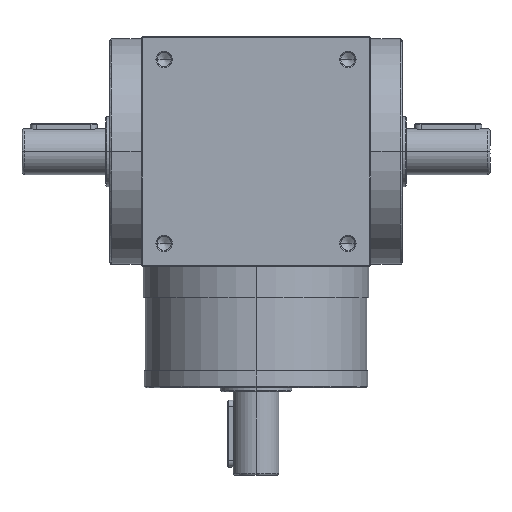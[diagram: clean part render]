
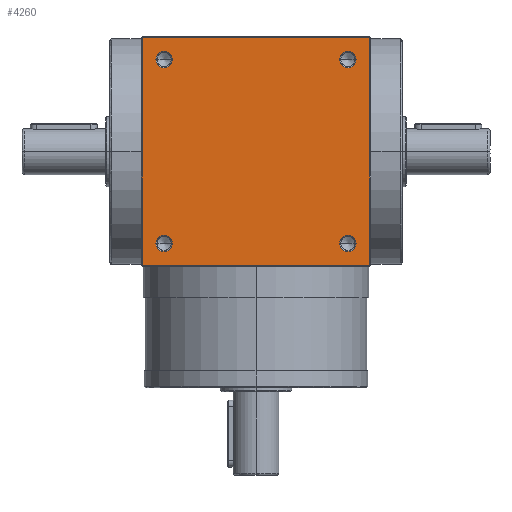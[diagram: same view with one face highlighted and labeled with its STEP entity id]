
A CAD part, top view. The second image highlights one B-rep face of the part: STEP entity #4260.
In plain terms, the highlighted planar face has unit normal (0, 0, 1).
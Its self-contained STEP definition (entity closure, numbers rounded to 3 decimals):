
#29 = EDGE_CURVE ( 'NONE', #10220, #1690, #3540, .T. ) ;
#40 = ORIENTED_EDGE ( 'NONE', *, *, #1122, .F. ) ;
#318 = VERTEX_POINT ( 'NONE', #4769 ) ;
#380 = DIRECTION ( 'NONE',  ( -1., 0., 0. ) ) ;
#432 = AXIS2_PLACEMENT_3D ( 'NONE', #1095, #8955, #5023 ) ;
#570 = CIRCLE ( 'NONE', #6752, 3.9 ) ;
#597 = CARTESIAN_POINT ( 'NONE',  ( -44., 47.9, 55. ) ) ;
#737 = ORIENTED_EDGE ( 'NONE', *, *, #3132, .F. ) ;
#756 = LINE ( 'NONE', #9552, #7748 ) ;
#921 = ORIENTED_EDGE ( 'NONE', *, *, #9871, .F. ) ;
#1095 = CARTESIAN_POINT ( 'NONE',  ( 44., 44., 55. ) ) ;
#1122 = EDGE_CURVE ( 'NONE', #9455, #1417, #7145, .T. ) ;
#1246 = DIRECTION ( 'NONE',  ( 0., 0., -1. ) ) ;
#1301 = FACE_BOUND ( 'NONE', #8341, .T. ) ;
#1417 = VERTEX_POINT ( 'NONE', #5219 ) ;
#1559 = DIRECTION ( 'NONE',  ( 0., -1., 0. ) ) ;
#1612 = CARTESIAN_POINT ( 'NONE',  ( -44., -44., 55. ) ) ;
#1690 = VERTEX_POINT ( 'NONE', #5767 ) ;
#1720 = EDGE_CURVE ( 'NONE', #3406, #8202, #2557, .T. ) ;
#1778 = DIRECTION ( 'NONE',  ( 0., -1., 0. ) ) ;
#1790 = DIRECTION ( 'NONE',  ( 0., -1., 0. ) ) ;
#1858 = ORIENTED_EDGE ( 'NONE', *, *, #4926, .F. ) ;
#1888 = DIRECTION ( 'NONE',  ( 0., 0., 1. ) ) ;
#2046 = ORIENTED_EDGE ( 'NONE', *, *, #29, .F. ) ;
#2282 = EDGE_CURVE ( 'NONE', #3197, #3603, #7114, .T. ) ;
#2305 = CARTESIAN_POINT ( 'NONE',  ( 44., -44., 55. ) ) ;
#2398 = AXIS2_PLACEMENT_3D ( 'NONE', #9066, #1888, #1778 ) ;
#2475 = ORIENTED_EDGE ( 'NONE', *, *, #3566, .F. ) ;
#2557 = CIRCLE ( 'NONE', #2398, 3.9 ) ;
#2599 = EDGE_CURVE ( 'NONE', #8605, #318, #9445, .T. ) ;
#2602 = DIRECTION ( 'NONE',  ( 0., 0., 1. ) ) ;
#2804 = FACE_BOUND ( 'NONE', #9469, .T. ) ;
#3132 = EDGE_CURVE ( 'NONE', #3714, #10056, #3286, .T. ) ;
#3197 = VERTEX_POINT ( 'NONE', #7729 ) ;
#3270 = VECTOR ( 'NONE', #3792, 1000. ) ;
#3286 = CIRCLE ( 'NONE', #9149, 3.9 ) ;
#3300 = AXIS2_PLACEMENT_3D ( 'NONE', #1612, #8696, #1559 ) ;
#3406 = VERTEX_POINT ( 'NONE', #597 ) ;
#3471 = CARTESIAN_POINT ( 'NONE',  ( -44., 44., 55. ) ) ;
#3492 = ORIENTED_EDGE ( 'NONE', *, *, #2282, .F. ) ;
#3528 = VECTOR ( 'NONE', #380, 1000. ) ;
#3540 = LINE ( 'NONE', #5047, #9315 ) ;
#3566 = EDGE_CURVE ( 'NONE', #10056, #3714, #9478, .T. ) ;
#3584 = DIRECTION ( 'NONE',  ( 0., 0., 1. ) ) ;
#3603 = VERTEX_POINT ( 'NONE', #8598 ) ;
#3714 = VERTEX_POINT ( 'NONE', #3934 ) ;
#3722 = AXIS2_PLACEMENT_3D ( 'NONE', #2305, #2602, #4776 ) ;
#3753 = EDGE_LOOP ( 'NONE', ( #921, #2046, #8856, #6639 ) ) ;
#3760 = FACE_BOUND ( 'NONE', #8281, .T. ) ;
#3792 = DIRECTION ( 'NONE',  ( 0., 1., 0. ) ) ;
#3934 = CARTESIAN_POINT ( 'NONE',  ( -44., -47.9, 55. ) ) ;
#4186 = DIRECTION ( 'NONE',  ( -1., 0., 0. ) ) ;
#4260 = ADVANCED_FACE ( 'NONE', ( #5341, #3760, #2804, #1301, #4489 ), #6020, .F. ) ;
#4438 = DIRECTION ( 'NONE',  ( -1., 0., 0. ) ) ;
#4472 = CARTESIAN_POINT ( 'NONE',  ( -44., -44., 55. ) ) ;
#4487 = DIRECTION ( 'NONE',  ( 0., -1., 0. ) ) ;
#4489 = FACE_OUTER_BOUND ( 'NONE', #3753, .T. ) ;
#4568 = DIRECTION ( 'NONE',  ( 0., -1., 0. ) ) ;
#4765 = DIRECTION ( 'NONE',  ( 1., 0., 0. ) ) ;
#4769 = CARTESIAN_POINT ( 'NONE',  ( -54.5, 54.5, 55. ) ) ;
#4776 = DIRECTION ( 'NONE',  ( 0., -1., 0. ) ) ;
#4926 = EDGE_CURVE ( 'NONE', #8202, #3406, #570, .T. ) ;
#5021 = AXIS2_PLACEMENT_3D ( 'NONE', #7974, #6243, #4765 ) ;
#5023 = DIRECTION ( 'NONE',  ( 1., 0., 0. ) ) ;
#5047 = CARTESIAN_POINT ( 'NONE',  ( 54.5, 0., 55. ) ) ;
#5219 = CARTESIAN_POINT ( 'NONE',  ( 44., -40.1, 55. ) ) ;
#5232 = AXIS2_PLACEMENT_3D ( 'NONE', #8432, #1246, #4438 ) ;
#5341 = FACE_BOUND ( 'NONE', #7810, .T. ) ;
#5360 = ORIENTED_EDGE ( 'NONE', *, *, #9853, .F. ) ;
#5439 = CARTESIAN_POINT ( 'NONE',  ( 44., -44., 55. ) ) ;
#5767 = CARTESIAN_POINT ( 'NONE',  ( 54.5, -54.5, 55. ) ) ;
#5838 = DIRECTION ( 'NONE',  ( 0., -1., 0. ) ) ;
#5878 = ORIENTED_EDGE ( 'NONE', *, *, #5971, .F. ) ;
#5971 = EDGE_CURVE ( 'NONE', #3603, #3197, #9384, .T. ) ;
#5972 = CARTESIAN_POINT ( 'NONE',  ( 0., 54.5, 55. ) ) ;
#6020 = PLANE ( 'NONE',  #5232 ) ;
#6064 = CARTESIAN_POINT ( 'NONE',  ( 54.5, 54.5, 55. ) ) ;
#6149 = DIRECTION ( 'NONE',  ( 0., 0., 1. ) ) ;
#6243 = DIRECTION ( 'NONE',  ( 0., 0., 1. ) ) ;
#6639 = ORIENTED_EDGE ( 'NONE', *, *, #2599, .F. ) ;
#6752 = AXIS2_PLACEMENT_3D ( 'NONE', #3471, #3584, #1790 ) ;
#7114 = CIRCLE ( 'NONE', #432, 3.9 ) ;
#7145 = CIRCLE ( 'NONE', #8479, 3.9 ) ;
#7267 = CARTESIAN_POINT ( 'NONE',  ( 44., -47.9, 55. ) ) ;
#7709 = ORIENTED_EDGE ( 'NONE', *, *, #1720, .F. ) ;
#7729 = CARTESIAN_POINT ( 'NONE',  ( 40.1, 44., 55. ) ) ;
#7748 = VECTOR ( 'NONE', #4186, 1000. ) ;
#7810 = EDGE_LOOP ( 'NONE', ( #1858, #7709 ) ) ;
#7974 = CARTESIAN_POINT ( 'NONE',  ( 44., 44., 55. ) ) ;
#8187 = CARTESIAN_POINT ( 'NONE',  ( -54.5, -54.5, 55. ) ) ;
#8202 = VERTEX_POINT ( 'NONE', #9956 ) ;
#8277 = LINE ( 'NONE', #5972, #3528 ) ;
#8281 = EDGE_LOOP ( 'NONE', ( #5878, #3492 ) ) ;
#8341 = EDGE_LOOP ( 'NONE', ( #40, #5360 ) ) ;
#8432 = CARTESIAN_POINT ( 'NONE',  ( 0., 0., 55. ) ) ;
#8479 = AXIS2_PLACEMENT_3D ( 'NONE', #5439, #8583, #4487 ) ;
#8583 = DIRECTION ( 'NONE',  ( 0., 0., 1. ) ) ;
#8598 = CARTESIAN_POINT ( 'NONE',  ( 47.9, 44., 55. ) ) ;
#8605 = VERTEX_POINT ( 'NONE', #8187 ) ;
#8612 = CARTESIAN_POINT ( 'NONE',  ( -54.5, 0., 55. ) ) ;
#8640 = CARTESIAN_POINT ( 'NONE',  ( -44., -40.1, 55. ) ) ;
#8696 = DIRECTION ( 'NONE',  ( 0., 0., 1. ) ) ;
#8856 = ORIENTED_EDGE ( 'NONE', *, *, #9044, .T. ) ;
#8955 = DIRECTION ( 'NONE',  ( 0., 0., 1. ) ) ;
#9044 = EDGE_CURVE ( 'NONE', #10220, #318, #8277, .T. ) ;
#9066 = CARTESIAN_POINT ( 'NONE',  ( -44., 44., 55. ) ) ;
#9149 = AXIS2_PLACEMENT_3D ( 'NONE', #4472, #6149, #4568 ) ;
#9240 = CIRCLE ( 'NONE', #3722, 3.9 ) ;
#9315 = VECTOR ( 'NONE', #5838, 1000. ) ;
#9384 = CIRCLE ( 'NONE', #5021, 3.9 ) ;
#9445 = LINE ( 'NONE', #8612, #3270 ) ;
#9455 = VERTEX_POINT ( 'NONE', #7267 ) ;
#9469 = EDGE_LOOP ( 'NONE', ( #737, #2475 ) ) ;
#9478 = CIRCLE ( 'NONE', #3300, 3.9 ) ;
#9552 = CARTESIAN_POINT ( 'NONE',  ( 0., -54.5, 55. ) ) ;
#9853 = EDGE_CURVE ( 'NONE', #1417, #9455, #9240, .T. ) ;
#9871 = EDGE_CURVE ( 'NONE', #1690, #8605, #756, .T. ) ;
#9956 = CARTESIAN_POINT ( 'NONE',  ( -44., 40.1, 55. ) ) ;
#10056 = VERTEX_POINT ( 'NONE', #8640 ) ;
#10220 = VERTEX_POINT ( 'NONE', #6064 ) ;
